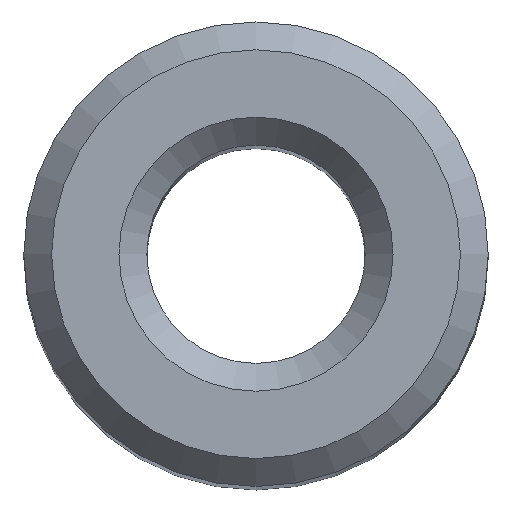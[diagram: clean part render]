
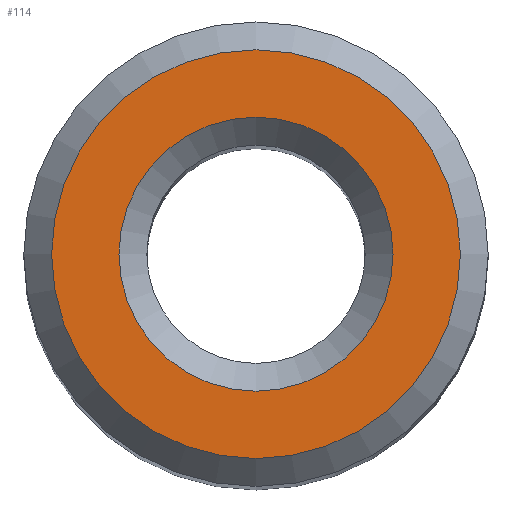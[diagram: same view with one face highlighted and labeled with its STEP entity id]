
A CAD part, top view. The second image highlights one B-rep face of the part: STEP entity #114.
In plain terms, the highlighted planar face has unit normal (0, 0, 1).
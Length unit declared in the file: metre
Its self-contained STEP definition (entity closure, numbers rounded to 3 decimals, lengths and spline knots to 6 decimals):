
#13=PLANE('',#140);
#44=ORIENTED_EDGE('',*,*,#64,.T.);
#45=ORIENTED_EDGE('',*,*,#66,.F.);
#64=EDGE_CURVE('',#75,#75,#83,.F.);
#66=EDGE_CURVE('',#77,#77,#85,.T.);
#75=VERTEX_POINT('',#200);
#77=VERTEX_POINT('',#207);
#83=CIRCLE('',#137,0.0044);
#85=CIRCLE('',#141,0.00295);
#93=EDGE_LOOP('',(#44));
#94=EDGE_LOOP('',(#45));
#103=FACE_BOUND('',#93,.T.);
#104=FACE_BOUND('',#94,.T.);
#114=ADVANCED_FACE('',(#103,#104),#13,.T.);
#137=AXIS2_PLACEMENT_3D('',#201,#164,#165);
#140=AXIS2_PLACEMENT_3D('',#205,#170,#171);
#141=AXIS2_PLACEMENT_3D('',#206,#172,#173);
#164=DIRECTION('',(0.,0.,-1.));
#165=DIRECTION('',(-1.,0.,0.));
#170=DIRECTION('',(0.,0.,1.));
#171=DIRECTION('',(1.,0.,0.));
#172=DIRECTION('',(0.,0.,1.));
#173=DIRECTION('',(1.,0.,0.));
#200=CARTESIAN_POINT('',(0.1544,0.04,0.096));
#201=CARTESIAN_POINT('',(0.15,0.04,0.096));
#205=CARTESIAN_POINT('',(0.15,0.04,0.096));
#206=CARTESIAN_POINT('',(0.15,0.04,0.096));
#207=CARTESIAN_POINT('',(0.15295,0.04,0.096));
